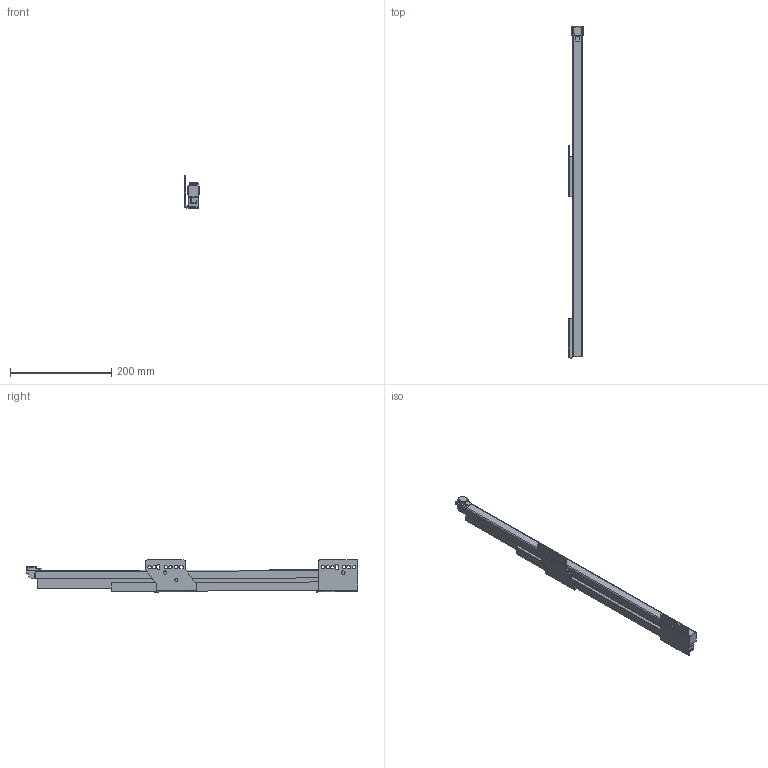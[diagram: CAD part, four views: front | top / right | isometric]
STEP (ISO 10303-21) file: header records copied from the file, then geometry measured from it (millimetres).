
FILE_DESCRIPTION (( 'STEP AP214' ), '1' );
FILE_NAME ('_IMOS_NOVA-Pro_KS_TL_EB29mm_LI_NL650.step', '2010-07-15T11:35:05', ( 'grass' ), ( '' ), 'SwSTEP 2.0', 'SolidWorks 2009', '' );
FILE_SCHEMA (( 'AUTOMOTIVE_DESIGN' ));
Length unit declared in the file: millimetre
Products named in the file (1): _IMOS_NOVA-Pro_KS_TL_EB29mm_LI_NL650
Bounding box: 27.9 x 655.51 x 64.46 mm (x, y, z)
Volume: 469246.8 mm3; surface area: 194486.7 mm2
Topology: 8 solids, 8 shells, 185 faces, 496 edges, 328 vertices
Faces by surface type: plane 116, cylinder 64, torus 5
Entity records: 5964 total; most frequent: CARTESIAN_POINT 1097, ORIENTED_EDGE 992, DIRECTION 972, EDGE_CURVE 496, LINE 350, VECTOR 350, VERTEX_POINT 328, AXIS2_PLACEMENT_3D 311
